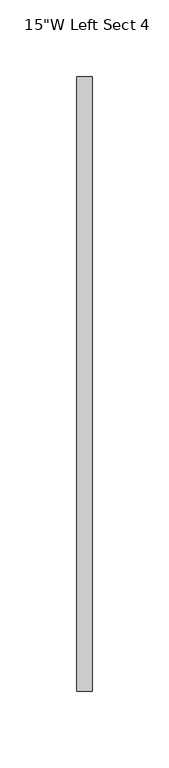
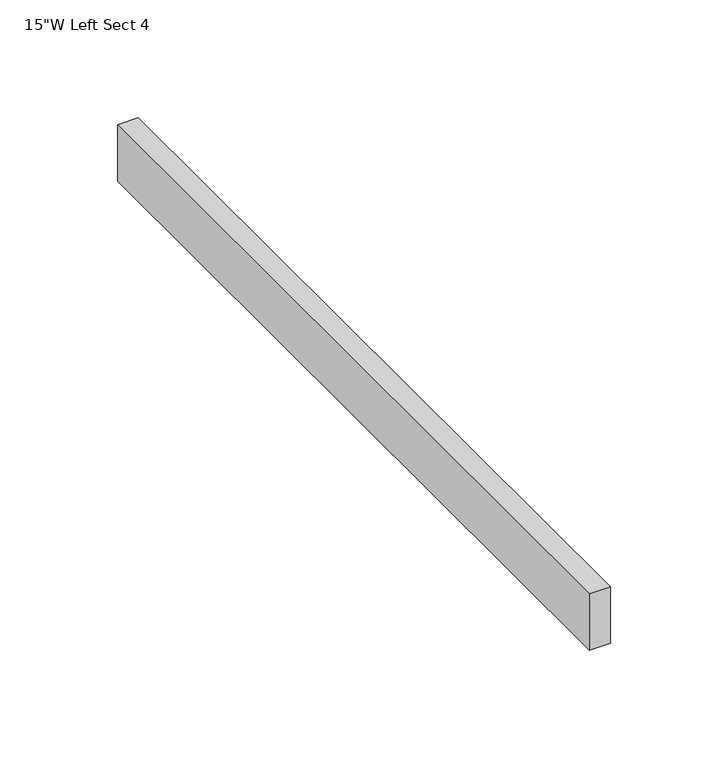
"""IFC4 building model written with IfcOpenShell, lengths in millimetres: furniture geometry."""

from ifc_helpers import new_model, si_unit, frame, origin, place, context, project, spatial, polyline, outline, extrude, source, transform, mapped, element, save


def furniture_63bd0a72(model_context):
    return source(origin(), model_context, "Body", "SweptSolid", [
        extrude(outline(polyline([(5.1854483, 200.787), (5.1854483, -200.787), (-5.0507517, -200.787), (-5.0507517, 200.787), (5.1854483, 200.787)])), frame((0.0, 0.0, 755.6563846), z_axis=(0.0, 0.0, 1.0), x_axis=(1.0, 0.0, 0.0)), (0.0, 0.0, 1.0), 29.4386),
    ])


if __name__ == "__main__":
    model = new_model("IFC4")
    model_context = context("Model", 3, world=origin())
    ifc_project = project(units=[si_unit("LENGTHUNIT", "METRE", prefix="MILLI")], contexts=[model_context])
    site = spatial("IfcSite", under=ifc_project)
    building = spatial("IfcBuilding", under=site)
    placement = place(None, origin())
    furniture_shape = furniture_63bd0a72(model_context)
    element("IfcFurniture", 1, ObjectType="HermanMiller_Carts_CT782_AccessoryRailSide : 15\"W Left Sect 4", at=placement, inside=building, context=model_context, shape_type="MappedRepresentation", body=[
        mapped(furniture_shape, transform((0.0, 0.0, 0.0), x_axis=(1.0, 0.0, 0.0), y_axis=(0.0, 1.0, 0.0), z_axis=(0.0, 0.0, 1.0))),
    ])
    save(model, "model.ifc")
